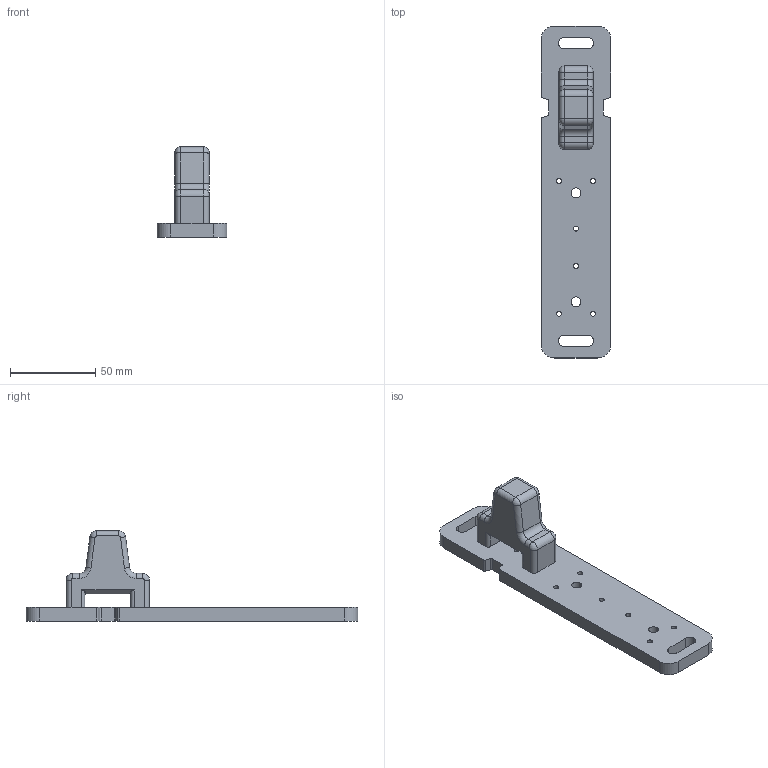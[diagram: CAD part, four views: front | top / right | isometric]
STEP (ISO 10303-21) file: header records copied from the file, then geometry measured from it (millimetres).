
FILE_DESCRIPTION (( 'STEP AP203' ), '1' );
FILE_NAME ('GBN-1 Switch Mounting Plate (STEP format).STEP', '2015-09-04T08:14:39', ( '' ), ( '' ), 'SwSTEP 2.0', 'SolidWorks 2015', '' );
FILE_SCHEMA (( 'CONFIG_CONTROL_DESIGN' ));
Length unit declared in the file: millimetre
Products named in the file (1): GBN-1 Switch Mounting Plate (STEP format)
Bounding box: 41 x 195 x 53 mm (x, y, z)
Volume: 85539 mm3; surface area: 27347.3 mm2
Topology: 4 solids, 4 shells, 194 faces, 480 edges, 300 vertices
Faces by surface type: cylinder 86, plane 68, cone 24, torus 12, bspline 4
Entity records: 5971 total; most frequent: CARTESIAN_POINT 1147, DIRECTION 1038, ORIENTED_EDGE 960, EDGE_CURVE 480, AXIS2_PLACEMENT_3D 383, VERTEX_POINT 300, LINE 272, VECTOR 272
